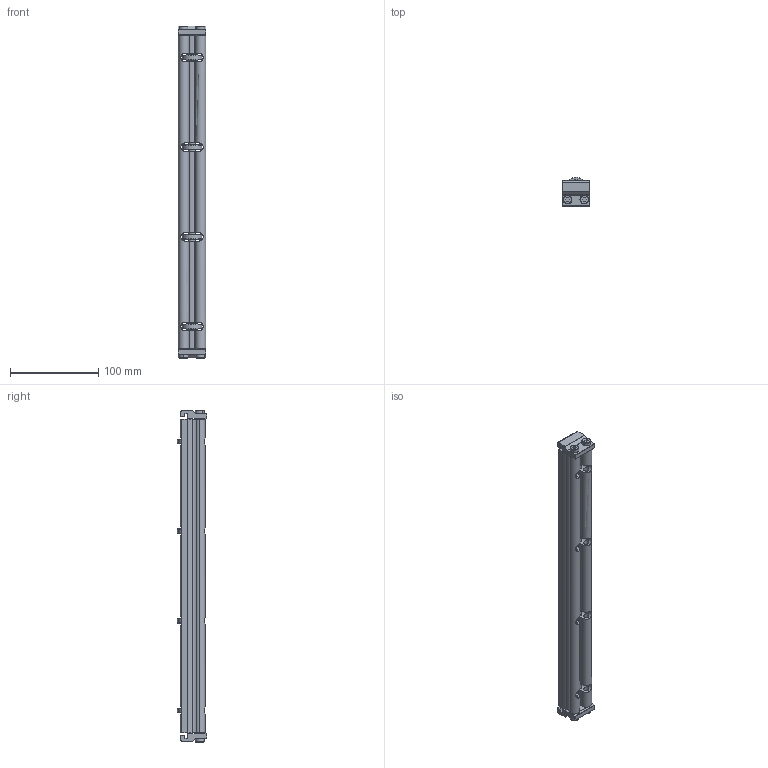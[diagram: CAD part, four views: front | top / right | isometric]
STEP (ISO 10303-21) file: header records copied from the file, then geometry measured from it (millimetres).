
FILE_DESCRIPTION((''),'2;1');
FILE_NAME('206523-14_ASM','2023-02-27T',('jenni.wallner'),(''),'PRO/ENGINEER BY PARAMETRIC TECHNOLOGY CORPORATION, 2012420','PRO/ENGINEER BY PARAMETRIC TECHNOLOGY CORPORATION, 2012420','');
FILE_SCHEMA(('CONFIG_CONTROL_DESIGN'));
Length unit declared in the file: inch
Products named in the file (7): 9506XXM_950612M; 240826; 205977_205978_205979_205978; 2436WW_243614; 2410WW_241014; ASM0001_ASM; 206523-14_ASM
Assembly tree (13 placements, depth 3):
  206523-14_ASM
    ASM0001_ASM
      9506XXM_950612M  x4
      240826  x4
      205977_205978_205979_205978  x2
      2436WW_243614
      2410WW_241014
Bounding box: 30.89 x 33.01 x 376.15 mm (x, y, z)
Volume: 182179.8 mm3; surface area: 108511.5 mm2
Topology: 12 solids, 12 shells, 366 faces, 994 edges, 652 vertices
Faces by surface type: cylinder 160, plane 138, cone 52, torus 16
Entity records: 8453 total; most frequent: CARTESIAN_POINT 1948, DIRECTION 1393, ORIENTED_EDGE 1346, EDGE_CURVE 673, AXIS2_PLACEMENT_3D 533, VERTEX_POINT 446, VECTOR 327, LINE 327
